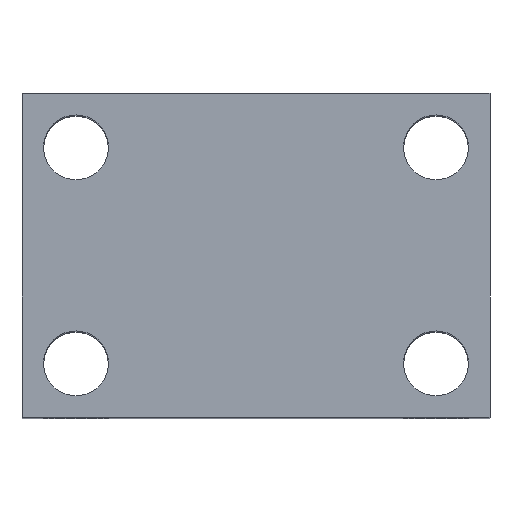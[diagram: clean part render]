
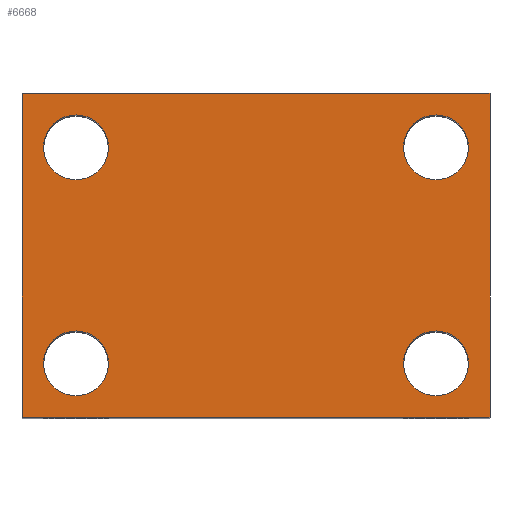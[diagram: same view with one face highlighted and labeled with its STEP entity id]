
A CAD part, top view. The second image highlights one B-rep face of the part: STEP entity #6668.
In plain terms, the highlighted planar face has unit normal (0, 0, 1).
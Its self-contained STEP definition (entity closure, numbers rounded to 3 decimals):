
#152 = CARTESIAN_POINT ( 'NONE',  ( -32.5, 45., 40. ) ) ;
#278 = CIRCLE ( 'NONE', #10531, 4.5 ) ;
#385 = VERTEX_POINT ( 'NONE', #7985 ) ;
#459 = DIRECTION ( 'NONE',  ( 0., 0., -1. ) ) ;
#504 = ORIENTED_EDGE ( 'NONE', *, *, #10375, .T. ) ;
#517 = EDGE_CURVE ( 'NONE', #8607, #4544, #7212, .T. ) ;
#530 = DIRECTION ( 'NONE',  ( -1., 0., 0. ) ) ;
#537 = AXIS2_PLACEMENT_3D ( 'NONE', #5154, #10957, #5945 ) ;
#571 = AXIS2_PLACEMENT_3D ( 'NONE', #4325, #2917, #2927 ) ;
#583 = ORIENTED_EDGE ( 'NONE', *, *, #9204, .F. ) ;
#737 = CARTESIAN_POINT ( 'NONE',  ( 25., 37.5, 40. ) ) ;
#974 = ORIENTED_EDGE ( 'NONE', *, *, #517, .T. ) ;
#1171 = ORIENTED_EDGE ( 'NONE', *, *, #10898, .T. ) ;
#1377 = ORIENTED_EDGE ( 'NONE', *, *, #10099, .F. ) ;
#1443 = ORIENTED_EDGE ( 'NONE', *, *, #1962, .T. ) ;
#1565 = FACE_BOUND ( 'NONE', #3842, .T. ) ;
#1779 = CARTESIAN_POINT ( 'NONE',  ( 32.5, 45., 40. ) ) ;
#1823 = DIRECTION ( 'NONE',  ( -1., 0., 0. ) ) ;
#1938 = DIRECTION ( 'NONE',  ( 0., 0., -1. ) ) ;
#1962 = EDGE_CURVE ( 'NONE', #7056, #6998, #7849, .T. ) ;
#1984 = DIRECTION ( 'NONE',  ( 1., 0., 0. ) ) ;
#1998 = VECTOR ( 'NONE', #10521, 1000. ) ;
#2208 = CARTESIAN_POINT ( 'NONE',  ( 20.5, 7.5, 40. ) ) ;
#2259 = VERTEX_POINT ( 'NONE', #8680 ) ;
#2317 = LINE ( 'NONE', #1779, #1998 ) ;
#2448 = DIRECTION ( 'NONE',  ( 0., 0., -1. ) ) ;
#2768 = ORIENTED_EDGE ( 'NONE', *, *, #11535, .T. ) ;
#2856 = DIRECTION ( 'NONE',  ( 0., -1., 0. ) ) ;
#2917 = DIRECTION ( 'NONE',  ( 0., 0., -1. ) ) ;
#2927 = DIRECTION ( 'NONE',  ( -1., 0., 0. ) ) ;
#2977 = VERTEX_POINT ( 'NONE', #6441 ) ;
#3359 = DIRECTION ( 'NONE',  ( 0., 0., -1. ) ) ;
#3364 = VECTOR ( 'NONE', #2856, 1000. ) ;
#3532 = VECTOR ( 'NONE', #1984, 1000. ) ;
#3697 = AXIS2_PLACEMENT_3D ( 'NONE', #4834, #5665, #11551 ) ;
#3744 = EDGE_LOOP ( 'NONE', ( #974, #8992 ) ) ;
#3830 = PLANE ( 'NONE',  #3697 ) ;
#3842 = EDGE_LOOP ( 'NONE', ( #1171, #8283 ) ) ;
#3881 = EDGE_LOOP ( 'NONE', ( #2768, #4840 ) ) ;
#3882 = FACE_OUTER_BOUND ( 'NONE', #9494, .T. ) ;
#3968 = AXIS2_PLACEMENT_3D ( 'NONE', #8412, #3359, #9305 ) ;
#4180 = FACE_BOUND ( 'NONE', #3881, .T. ) ;
#4275 = LINE ( 'NONE', #5659, #11243 ) ;
#4325 = CARTESIAN_POINT ( 'NONE',  ( -25., 37.5, 40. ) ) ;
#4544 = VERTEX_POINT ( 'NONE', #11609 ) ;
#4597 = AXIS2_PLACEMENT_3D ( 'NONE', #737, #7129, #1823 ) ;
#4834 = CARTESIAN_POINT ( 'NONE',  ( -32.5, 45., 40. ) ) ;
#4840 = ORIENTED_EDGE ( 'NONE', *, *, #10181, .T. ) ;
#5154 = CARTESIAN_POINT ( 'NONE',  ( -25., 7.5, 40. ) ) ;
#5155 = EDGE_CURVE ( 'NONE', #6639, #2259, #7293, .T. ) ;
#5233 = CIRCLE ( 'NONE', #4597, 4.5 ) ;
#5659 = CARTESIAN_POINT ( 'NONE',  ( -32.5, 45., 40. ) ) ;
#5665 = DIRECTION ( 'NONE',  ( 0., 0., -1. ) ) ;
#5945 = DIRECTION ( 'NONE',  ( -1., 0., 0. ) ) ;
#6124 = CARTESIAN_POINT ( 'NONE',  ( 25., 37.5, 40. ) ) ;
#6140 = FACE_BOUND ( 'NONE', #3744, .T. ) ;
#6183 = DIRECTION ( 'NONE',  ( 0., 0., -1. ) ) ;
#6354 = CARTESIAN_POINT ( 'NONE',  ( 29.5, 37.5, 40. ) ) ;
#6441 = CARTESIAN_POINT ( 'NONE',  ( 29.5, 7.5, 40. ) ) ;
#6509 = CARTESIAN_POINT ( 'NONE',  ( -29.5, 37.5, 40. ) ) ;
#6639 = VERTEX_POINT ( 'NONE', #6354 ) ;
#6668 = ADVANCED_FACE ( 'NONE', ( #6140, #4180, #1565, #10591, #3882 ), #3830, .F. ) ;
#6796 = CARTESIAN_POINT ( 'NONE',  ( -32.5, 0., 40. ) ) ;
#6919 = DIRECTION ( 'NONE',  ( -1., 0., 0. ) ) ;
#6938 = CIRCLE ( 'NONE', #7067, 4.5 ) ;
#6998 = VERTEX_POINT ( 'NONE', #11055 ) ;
#7031 = CARTESIAN_POINT ( 'NONE',  ( -32.5, 45., 40. ) ) ;
#7056 = VERTEX_POINT ( 'NONE', #7031 ) ;
#7067 = AXIS2_PLACEMENT_3D ( 'NONE', #7218, #1938, #8073 ) ;
#7129 = DIRECTION ( 'NONE',  ( 0., 0., -1. ) ) ;
#7212 = CIRCLE ( 'NONE', #571, 4.5 ) ;
#7218 = CARTESIAN_POINT ( 'NONE',  ( -25., 7.5, 40. ) ) ;
#7253 = CARTESIAN_POINT ( 'NONE',  ( -29.5, 7.5, 40. ) ) ;
#7260 = VERTEX_POINT ( 'NONE', #10455 ) ;
#7293 = CIRCLE ( 'NONE', #11379, 4.5 ) ;
#7603 = VERTEX_POINT ( 'NONE', #2208 ) ;
#7618 = CARTESIAN_POINT ( 'NONE',  ( 25., 7.5, 40. ) ) ;
#7743 = VERTEX_POINT ( 'NONE', #10130 ) ;
#7841 = EDGE_CURVE ( 'NONE', #2977, #7603, #10700, .T. ) ;
#7849 = LINE ( 'NONE', #152, #3364 ) ;
#7985 = CARTESIAN_POINT ( 'NONE',  ( -20.5, 7.5, 40. ) ) ;
#8037 = VERTEX_POINT ( 'NONE', #7253 ) ;
#8073 = DIRECTION ( 'NONE',  ( -1., 0., 0. ) ) ;
#8139 = CIRCLE ( 'NONE', #3968, 4.5 ) ;
#8283 = ORIENTED_EDGE ( 'NONE', *, *, #7841, .T. ) ;
#8392 = CIRCLE ( 'NONE', #537, 4.5 ) ;
#8412 = CARTESIAN_POINT ( 'NONE',  ( -25., 37.5, 40. ) ) ;
#8496 = DIRECTION ( 'NONE',  ( -1., 0., 0. ) ) ;
#8607 = VERTEX_POINT ( 'NONE', #6509 ) ;
#8680 = CARTESIAN_POINT ( 'NONE',  ( 20.5, 37.5, 40. ) ) ;
#8937 = AXIS2_PLACEMENT_3D ( 'NONE', #11235, #6183, #530 ) ;
#8986 = EDGE_LOOP ( 'NONE', ( #504, #11610 ) ) ;
#8992 = ORIENTED_EDGE ( 'NONE', *, *, #10197, .T. ) ;
#9204 = EDGE_CURVE ( 'NONE', #7743, #7260, #2317, .T. ) ;
#9305 = DIRECTION ( 'NONE',  ( -1., 0., 0. ) ) ;
#9494 = EDGE_LOOP ( 'NONE', ( #11384, #583, #1377, #1443 ) ) ;
#9796 = EDGE_CURVE ( 'NONE', #6998, #7260, #10315, .T. ) ;
#10099 = EDGE_CURVE ( 'NONE', #7056, #7743, #4275, .T. ) ;
#10130 = CARTESIAN_POINT ( 'NONE',  ( 32.5, 45., 40. ) ) ;
#10181 = EDGE_CURVE ( 'NONE', #385, #8037, #8392, .T. ) ;
#10197 = EDGE_CURVE ( 'NONE', #4544, #8607, #8139, .T. ) ;
#10315 = LINE ( 'NONE', #6796, #3532 ) ;
#10375 = EDGE_CURVE ( 'NONE', #2259, #6639, #5233, .T. ) ;
#10455 = CARTESIAN_POINT ( 'NONE',  ( 32.5, 0., 40. ) ) ;
#10521 = DIRECTION ( 'NONE',  ( 0., -1., 0. ) ) ;
#10531 = AXIS2_PLACEMENT_3D ( 'NONE', #7618, #2448, #8496 ) ;
#10591 = FACE_BOUND ( 'NONE', #8986, .T. ) ;
#10700 = CIRCLE ( 'NONE', #8937, 4.5 ) ;
#10733 = DIRECTION ( 'NONE',  ( 1., 0., 0. ) ) ;
#10898 = EDGE_CURVE ( 'NONE', #7603, #2977, #278, .T. ) ;
#10957 = DIRECTION ( 'NONE',  ( 0., 0., -1. ) ) ;
#11055 = CARTESIAN_POINT ( 'NONE',  ( -32.5, 0., 40. ) ) ;
#11235 = CARTESIAN_POINT ( 'NONE',  ( 25., 7.5, 40. ) ) ;
#11243 = VECTOR ( 'NONE', #10733, 1000. ) ;
#11379 = AXIS2_PLACEMENT_3D ( 'NONE', #6124, #459, #6919 ) ;
#11384 = ORIENTED_EDGE ( 'NONE', *, *, #9796, .T. ) ;
#11535 = EDGE_CURVE ( 'NONE', #8037, #385, #6938, .T. ) ;
#11551 = DIRECTION ( 'NONE',  ( -1., 0., 0. ) ) ;
#11609 = CARTESIAN_POINT ( 'NONE',  ( -20.5, 37.5, 40. ) ) ;
#11610 = ORIENTED_EDGE ( 'NONE', *, *, #5155, .T. ) ;
